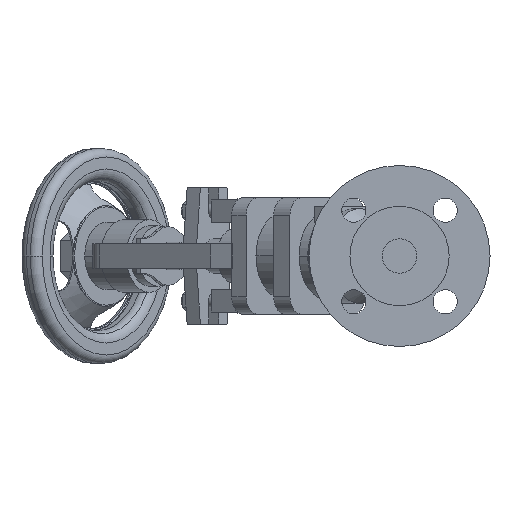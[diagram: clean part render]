
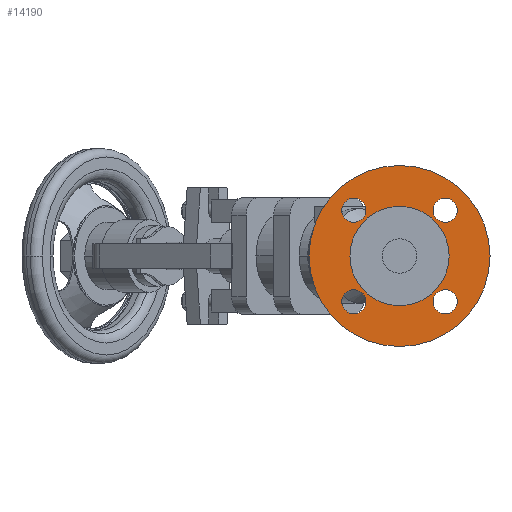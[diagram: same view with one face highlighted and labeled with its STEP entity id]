
A CAD part, left-side view. The second image highlights one B-rep face of the part: STEP entity #14190.
In plain terms, the highlighted planar face has unit normal (-1, 0, 0).
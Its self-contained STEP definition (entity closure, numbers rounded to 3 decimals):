
#4820=CARTESIAN_POINT('',(3.2,-28.795,0.));
#4830=VERTEX_POINT('',#4820);
#4860=CARTESIAN_POINT('',(3.2,0.,0.));
#4870=DIRECTION('',(-1.,0.,0.));
#4880=DIRECTION('',(0.,1.,0.));
#4890=AXIS2_PLACEMENT_3D('',#4860,#4870,#4880);
#4900=CIRCLE('',#4890,28.795);
#4910=CARTESIAN_POINT('',(3.2,28.795,0.));
#4920=VERTEX_POINT('',#4910);
#4930=EDGE_CURVE('',#4920,#4830,#4900,.T.);
#6840=CARTESIAN_POINT('',(3.2,0.,52.5));
#6850=VERTEX_POINT('',#6840);
#7030=CARTESIAN_POINT('',(3.2,0.,-52.5));
#7040=VERTEX_POINT('',#7030);
#7070=CARTESIAN_POINT('',(3.2,0.,0.));
#7080=DIRECTION('',(1.,0.,0.));
#7090=DIRECTION('',(0.,0.,-1.));
#7100=AXIS2_PLACEMENT_3D('',#7070,#7080,#7090);
#7110=CIRCLE('',#7100,52.5);
#7120=EDGE_CURVE('',#6850,#7040,#7110,.T.);
#7330=CARTESIAN_POINT('',(3.2,26.517,-33.517));
#7340=VERTEX_POINT('',#7330);
#7520=CARTESIAN_POINT('',(3.2,26.517,-19.517));
#7530=VERTEX_POINT('',#7520);
#7560=CARTESIAN_POINT('',(3.2,26.517,-26.517));
#7570=DIRECTION('',(-1.,0.,0.));
#7580=DIRECTION('',(0.,0.,-1.));
#7590=AXIS2_PLACEMENT_3D('',#7560,#7570,#7580);
#7600=CIRCLE('',#7590,7.);
#7610=EDGE_CURVE('',#7340,#7530,#7600,.T.);
#7820=CARTESIAN_POINT('',(3.2,-26.517,-19.517));
#7830=VERTEX_POINT('',#7820);
#7880=CARTESIAN_POINT('',(3.2,-26.517,-26.517));
#7890=DIRECTION('',(-1.,0.,0.));
#7900=DIRECTION('',(0.,0.,-1.));
#7910=AXIS2_PLACEMENT_3D('',#7880,#7890,#7900);
#7920=CIRCLE('',#7910,7.);
#7930=CARTESIAN_POINT('',(3.2,-26.517,-33.517));
#7940=VERTEX_POINT('',#7930);
#7950=EDGE_CURVE('',#7940,#7830,#7920,.T.);
#8310=CARTESIAN_POINT('',(3.2,-26.517,19.517));
#8320=VERTEX_POINT('',#8310);
#8370=CARTESIAN_POINT('',(3.2,-26.517,26.517));
#8380=DIRECTION('',(-1.,0.,0.));
#8390=DIRECTION('',(0.,0.,-1.));
#8400=AXIS2_PLACEMENT_3D('',#8370,#8380,#8390);
#8410=CIRCLE('',#8400,7.);
#8420=CARTESIAN_POINT('',(3.2,-26.517,33.517));
#8430=VERTEX_POINT('',#8420);
#8440=EDGE_CURVE('',#8430,#8320,#8410,.T.);
#8800=CARTESIAN_POINT('',(3.2,26.517,19.517));
#8810=VERTEX_POINT('',#8800);
#8860=CARTESIAN_POINT('',(3.2,26.517,26.517));
#8870=DIRECTION('',(-1.,0.,0.));
#8880=DIRECTION('',(0.,0.,-1.));
#8890=AXIS2_PLACEMENT_3D('',#8860,#8870,#8880);
#8900=CIRCLE('',#8890,7.);
#8910=CARTESIAN_POINT('',(3.2,26.517,33.517));
#8920=VERTEX_POINT('',#8910);
#8930=EDGE_CURVE('',#8920,#8810,#8900,.T.);
#13840=CARTESIAN_POINT('',(3.2,0.,0.));
#13850=DIRECTION('',(1.,0.,0.));
#13860=DIRECTION('',(0.,0.,-1.));
#13870=AXIS2_PLACEMENT_3D('',#13840,#13850,#13860);
#13880=PLANE('',#13870);
#13890=ORIENTED_EDGE('',*,*,#8930,.F.);
#13900=EDGE_CURVE('',#8810,#8920,#8900,.T.);
#13910=ORIENTED_EDGE('',*,*,#13900,.F.);
#13920=EDGE_LOOP('',(#13910,#13890));
#13930=FACE_BOUND('',#13920,.T.);
#13940=EDGE_CURVE('',#8320,#8430,#8410,.T.);
#13950=ORIENTED_EDGE('',*,*,#13940,.F.);
#13960=ORIENTED_EDGE('',*,*,#8440,.F.);
#13970=EDGE_LOOP('',(#13960,#13950));
#13980=FACE_BOUND('',#13970,.T.);
#13990=ORIENTED_EDGE('',*,*,#7950,.F.);
#14000=EDGE_CURVE('',#7830,#7940,#7920,.T.);
#14010=ORIENTED_EDGE('',*,*,#14000,.F.);
#14020=EDGE_LOOP('',(#14010,#13990));
#14030=FACE_BOUND('',#14020,.T.);
#14040=EDGE_CURVE('',#7530,#7340,#7600,.T.);
#14050=ORIENTED_EDGE('',*,*,#14040,.F.);
#14060=ORIENTED_EDGE('',*,*,#7610,.F.);
#14070=EDGE_LOOP('',(#14060,#14050));
#14080=FACE_BOUND('',#14070,.T.);
#14090=EDGE_CURVE('',#7040,#6850,#7110,.T.);
#14100=ORIENTED_EDGE('',*,*,#14090,.F.);
#14110=ORIENTED_EDGE('',*,*,#7120,.F.);
#14120=EDGE_LOOP('',(#14110,#14100));
#14130=FACE_OUTER_BOUND('',#14120,.T.);
#14140=ORIENTED_EDGE('',*,*,#4930,.F.);
#14150=EDGE_CURVE('',#4830,#4920,#4900,.T.);
#14160=ORIENTED_EDGE('',*,*,#14150,.F.);
#14170=EDGE_LOOP('',(#14160,#14140));
#14180=FACE_BOUND('',#14170,.T.);
#14190=ADVANCED_FACE('',(#13930,#13980,#14030,#14080,#14130,#14180),
#13880,.F.);
